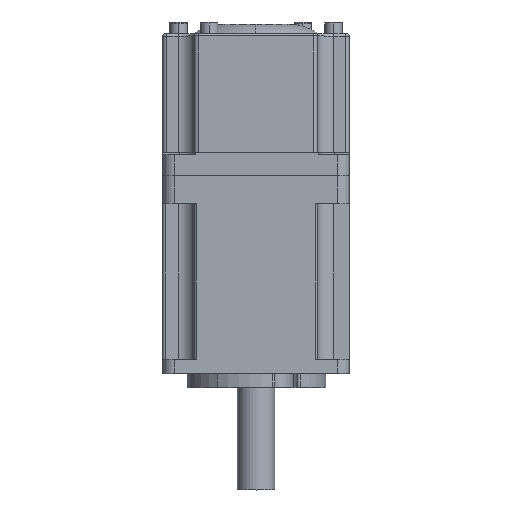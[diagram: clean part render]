
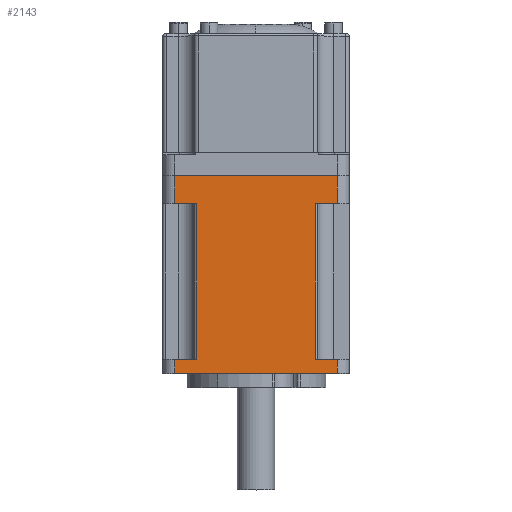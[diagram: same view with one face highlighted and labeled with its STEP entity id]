
A CAD part, top view. The second image highlights one B-rep face of the part: STEP entity #2143.
In plain terms, the highlighted planar face has unit normal (0, 0, 1).
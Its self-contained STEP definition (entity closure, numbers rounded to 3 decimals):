
#204 = DIRECTION ( 'NONE',  ( -1., 0., 0. ) ) ;
#328 = VERTEX_POINT ( 'NONE', #3614 ) ;
#339 = VECTOR ( 'NONE', #7427, 1000. ) ;
#371 = CARTESIAN_POINT ( 'NONE',  ( -32.668, -17.723, 26.5 ) ) ;
#406 = EDGE_CURVE ( 'NONE', #5040, #9646, #2749, .T. ) ;
#413 = CARTESIAN_POINT ( 'NONE',  ( -32.668, 15.777, 26.5 ) ) ;
#538 = EDGE_CURVE ( 'NONE', #8080, #9646, #2306, .T. ) ;
#598 = VERTEX_POINT ( 'NONE', #9316 ) ;
#628 = DIRECTION ( 'NONE',  ( 0., -1., 0. ) ) ;
#810 = EDGE_LOOP ( 'NONE', ( #4966, #5368, #5706, #5715, #5868, #5953, #6013, #6150, #6260, #6431, #6637, #6860 ) ) ;
#836 = LINE ( 'NONE', #8478, #2561 ) ;
#875 = CARTESIAN_POINT ( 'NONE',  ( -2.468, -17.723, 26.5 ) ) ;
#1212 = CARTESIAN_POINT ( 'NONE',  ( -35.168, -20.723, 26.5 ) ) ;
#1232 = DIRECTION ( 'NONE',  ( -1., 0., 0. ) ) ;
#1249 = VERTEX_POINT ( 'NONE', #7454 ) ;
#1344 = VERTEX_POINT ( 'NONE', #7127 ) ;
#1366 = DIRECTION ( 'NONE',  ( 0., 1., 0. ) ) ;
#1491 = CARTESIAN_POINT ( 'NONE',  ( -27.868, 30.777, 26.5 ) ) ;
#1803 = DIRECTION ( 'NONE',  ( 1., 0., 0. ) ) ;
#1834 = CARTESIAN_POINT ( 'NONE',  ( -32.668, 15.777, 26.5 ) ) ;
#1849 = VECTOR ( 'NONE', #1232, 1000. ) ;
#2106 = VERTEX_POINT ( 'NONE', #875 ) ;
#2108 = LINE ( 'NONE', #3184, #11076 ) ;
#2143 = ADVANCED_FACE ( 'NONE', ( #8000 ), #7686, .F. ) ;
#2172 = EDGE_CURVE ( 'NONE', #8080, #2106, #836, .T. ) ;
#2225 = VECTOR ( 'NONE', #2779, 1000. ) ;
#2306 = LINE ( 'NONE', #10748, #2225 ) ;
#2400 = DIRECTION ( 'NONE',  ( -1., 0., 0. ) ) ;
#2479 = EDGE_CURVE ( 'NONE', #3535, #1344, #8979, .T. ) ;
#2541 = CARTESIAN_POINT ( 'NONE',  ( -32.668, -17.723, 26.5 ) ) ;
#2561 = VECTOR ( 'NONE', #2400, 1000. ) ;
#2684 = VECTOR ( 'NONE', #1803, 1000. ) ;
#2691 = DIRECTION ( 'NONE',  ( 1., 0., 0. ) ) ;
#2743 = DIRECTION ( 'NONE',  ( 0., 0., -1. ) ) ;
#2749 = LINE ( 'NONE', #1212, #2684 ) ;
#2779 = DIRECTION ( 'NONE',  ( 0., -1., 0. ) ) ;
#3184 = CARTESIAN_POINT ( 'NONE',  ( -32.668, 15.777, 26.5 ) ) ;
#3535 = VERTEX_POINT ( 'NONE', #9963 ) ;
#3614 = CARTESIAN_POINT ( 'NONE',  ( -27.868, 15.777, 26.5 ) ) ;
#4039 = DIRECTION ( 'NONE',  ( 0., 1., 0. ) ) ;
#4373 = CARTESIAN_POINT ( 'NONE',  ( -32.668, -20.723, 26.5 ) ) ;
#4625 = EDGE_CURVE ( 'NONE', #1249, #2106, #10326, .T. ) ;
#4966 = ORIENTED_EDGE ( 'NONE', *, *, #4625, .F. ) ;
#5040 = VERTEX_POINT ( 'NONE', #4373 ) ;
#5358 = CARTESIAN_POINT ( 'NONE',  ( -2.468, 30.777, 26.5 ) ) ;
#5368 = ORIENTED_EDGE ( 'NONE', *, *, #10206, .T. ) ;
#5419 = VERTEX_POINT ( 'NONE', #413 ) ;
#5443 = DIRECTION ( 'NONE',  ( 1., 0., 0. ) ) ;
#5444 = CARTESIAN_POINT ( 'NONE',  ( 2.332, -17.723, 26.5 ) ) ;
#5575 = EDGE_CURVE ( 'NONE', #9541, #1344, #8292, .T. ) ;
#5706 = ORIENTED_EDGE ( 'NONE', *, *, #2479, .T. ) ;
#5715 = ORIENTED_EDGE ( 'NONE', *, *, #5575, .F. ) ;
#5868 = ORIENTED_EDGE ( 'NONE', *, *, #8283, .F. ) ;
#5953 = ORIENTED_EDGE ( 'NONE', *, *, #11127, .T. ) ;
#6013 = ORIENTED_EDGE ( 'NONE', *, *, #8311, .T. ) ;
#6035 = VECTOR ( 'NONE', #628, 1000. ) ;
#6062 = VERTEX_POINT ( 'NONE', #2541 ) ;
#6150 = ORIENTED_EDGE ( 'NONE', *, *, #9350, .T. ) ;
#6260 = ORIENTED_EDGE ( 'NONE', *, *, #7698, .T. ) ;
#6431 = ORIENTED_EDGE ( 'NONE', *, *, #406, .T. ) ;
#6637 = ORIENTED_EDGE ( 'NONE', *, *, #538, .F. ) ;
#6656 = DIRECTION ( 'NONE',  ( 0., -1., 0. ) ) ;
#6860 = ORIENTED_EDGE ( 'NONE', *, *, #2172, .T. ) ;
#6978 = CARTESIAN_POINT ( 'NONE',  ( 2.332, -20.723, 26.5 ) ) ;
#7014 = CARTESIAN_POINT ( 'NONE',  ( -35.168, 21.777, 26.5 ) ) ;
#7127 = CARTESIAN_POINT ( 'NONE',  ( 2.332, 21.777, 26.5 ) ) ;
#7164 = VECTOR ( 'NONE', #2691, 1000. ) ;
#7427 = DIRECTION ( 'NONE',  ( 0., -1., 0. ) ) ;
#7454 = CARTESIAN_POINT ( 'NONE',  ( -2.468, 15.777, 26.5 ) ) ;
#7464 = VECTOR ( 'NONE', #5443, 1000. ) ;
#7483 = VECTOR ( 'NONE', #1366, 1000. ) ;
#7686 = PLANE ( 'NONE',  #9704 ) ;
#7698 = EDGE_CURVE ( 'NONE', #6062, #5040, #9268, .T. ) ;
#7947 = VECTOR ( 'NONE', #6656, 1000. ) ;
#8000 = FACE_OUTER_BOUND ( 'NONE', #810, .T. ) ;
#8080 = VERTEX_POINT ( 'NONE', #5444 ) ;
#8083 = LINE ( 'NONE', #371, #1849 ) ;
#8283 = EDGE_CURVE ( 'NONE', #5419, #9541, #2108, .T. ) ;
#8292 = LINE ( 'NONE', #8721, #7464 ) ;
#8311 = EDGE_CURVE ( 'NONE', #328, #598, #8491, .T. ) ;
#8478 = CARTESIAN_POINT ( 'NONE',  ( -32.668, -17.723, 26.5 ) ) ;
#8491 = LINE ( 'NONE', #1491, #7947 ) ;
#8721 = CARTESIAN_POINT ( 'NONE',  ( -35.168, 21.777, 26.5 ) ) ;
#8979 = LINE ( 'NONE', #9695, #7483 ) ;
#9268 = LINE ( 'NONE', #10189, #6035 ) ;
#9316 = CARTESIAN_POINT ( 'NONE',  ( -27.868, -17.723, 26.5 ) ) ;
#9350 = EDGE_CURVE ( 'NONE', #598, #6062, #8083, .T. ) ;
#9436 = LINE ( 'NONE', #9487, #9576 ) ;
#9487 = CARTESIAN_POINT ( 'NONE',  ( -32.668, 15.777, 26.5 ) ) ;
#9541 = VERTEX_POINT ( 'NONE', #10330 ) ;
#9576 = VECTOR ( 'NONE', #10335, 1000. ) ;
#9646 = VERTEX_POINT ( 'NONE', #6978 ) ;
#9695 = CARTESIAN_POINT ( 'NONE',  ( 2.332, 15.777, 26.5 ) ) ;
#9704 = AXIS2_PLACEMENT_3D ( 'NONE', #7014, #2743, #204 ) ;
#9963 = CARTESIAN_POINT ( 'NONE',  ( 2.332, 15.777, 26.5 ) ) ;
#10189 = CARTESIAN_POINT ( 'NONE',  ( -32.668, -17.723, 26.5 ) ) ;
#10206 = EDGE_CURVE ( 'NONE', #1249, #3535, #10708, .T. ) ;
#10326 = LINE ( 'NONE', #5358, #339 ) ;
#10330 = CARTESIAN_POINT ( 'NONE',  ( -32.668, 21.777, 26.5 ) ) ;
#10335 = DIRECTION ( 'NONE',  ( 1., 0., 0. ) ) ;
#10708 = LINE ( 'NONE', #1834, #7164 ) ;
#10748 = CARTESIAN_POINT ( 'NONE',  ( 2.332, -17.723, 26.5 ) ) ;
#11076 = VECTOR ( 'NONE', #4039, 1000. ) ;
#11127 = EDGE_CURVE ( 'NONE', #5419, #328, #9436, .T. ) ;
